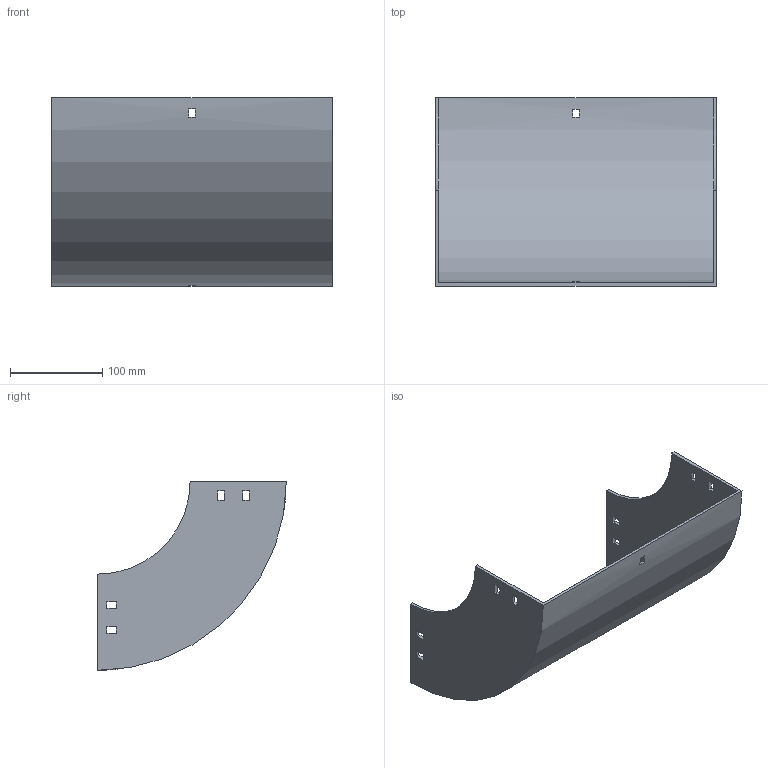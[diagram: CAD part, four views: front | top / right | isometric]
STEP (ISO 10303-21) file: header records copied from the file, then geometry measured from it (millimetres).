
FILE_DESCRIPTION (( 'STEP AP214' ), '1' );
FILE_NAME ('30B1D300.step', '2025-02-21T09:48:40', ( '' ), ( '' ), 'SwSTEP 2.0', 'SolidWorks 2023', '' );
FILE_SCHEMA (( 'AUTOMOTIVE_DESIGN' ));
Length unit declared in the file: millimetre
Products named in the file (1): 30B1D300
Bounding box: 304 x 204 x 204 mm (x, y, z)
Volume: 501689.6 mm3; surface area: 292503.3 mm2
Topology: 1 solids, 1 shells, 50 faces, 144 edges, 96 vertices
Faces by surface type: plane 46, cylinder 4
Entity records: 1687 total; most frequent: CARTESIAN_POINT 291, ORIENTED_EDGE 288, DIRECTION 262, EDGE_CURVE 144, LINE 128, VECTOR 128, VERTEX_POINT 96, EDGE_LOOP 70
